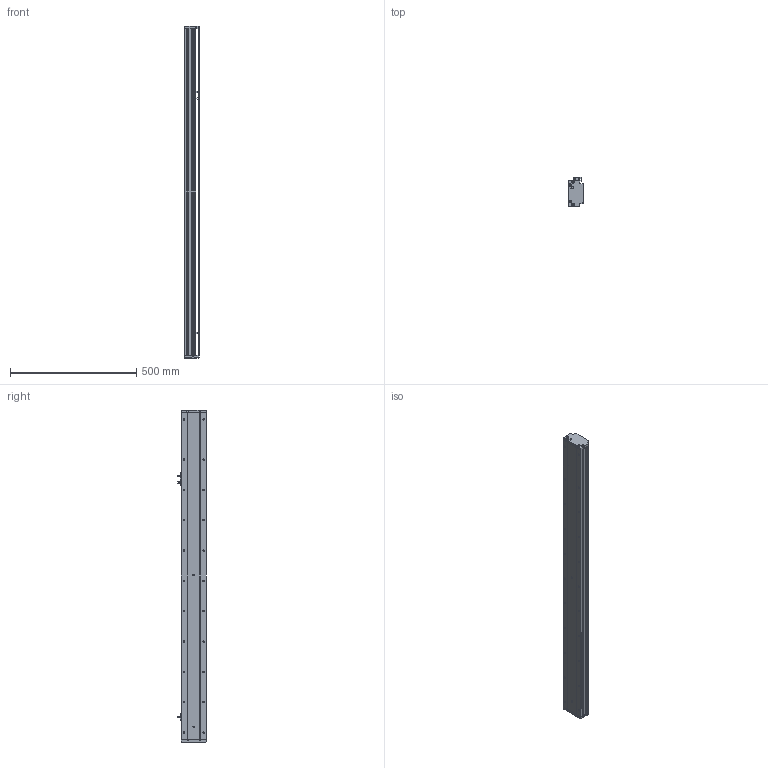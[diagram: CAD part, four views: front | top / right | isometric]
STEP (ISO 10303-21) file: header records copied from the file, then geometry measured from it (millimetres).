
FILE_DESCRIPTION (( 'STEP AP214' ), '1' );
FILE_NAME ('KSD100S-S950-M-CM.STEP', '2019-08-30T02:39:58', ( '微软用户' ), ( '微软中国' ), 'SwSTEP 2.0', 'SolidWorks 2014', '' );
FILE_SCHEMA (( 'AUTOMOTIVE_DESIGN' ));
Length unit declared in the file: millimetre
Products named in the file (6): 100遵傷啣; 100宽底板半封闭丝杆950行程电机内装; KSD100S-S950-M-CM; U倰嫖萇EEㄜSX672; 100宽防尘板丝杆950行程电机内装; 100宽马达安装板-电机内装
Assembly tree (7 placements, depth 2):
  KSD100S-S950-M-CM
    100宽底板半封闭丝杆950行程电机内装
    100遵傷啣
    100宽马达安装板-电机内装
    100宽防尘板丝杆950行程电机内装
    U倰嫖萇EEㄜSX672  x3
Bounding box: 58.73 x 113.7 x 1313 mm (x, y, z)
Volume: 2336671.4 mm3; surface area: 860376.2 mm2
Topology: 7 solids, 7 shells, 994 faces, 2834 edges, 1775 vertices
Faces by surface type: cylinder 472, plane 401, cone 121
Entity records: 33925 total; most frequent: CARTESIAN_POINT 7695, DIRECTION 4343, ORIENTED_EDGE 4320, EDGE_CURVE 2160, AXIS2_PLACEMENT_3D 1555, VERTEX_POINT 1399, VECTOR 1233, LINE 1233
